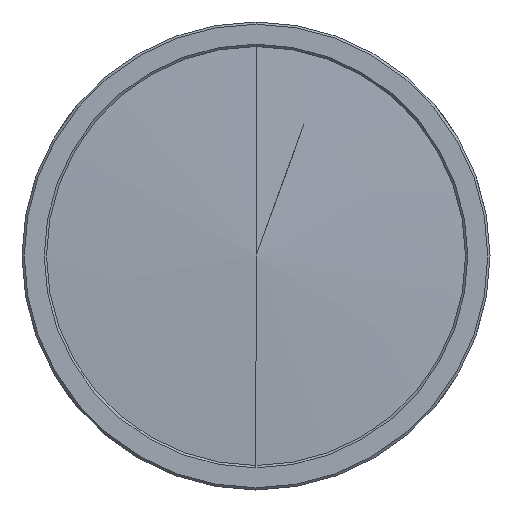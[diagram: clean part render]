
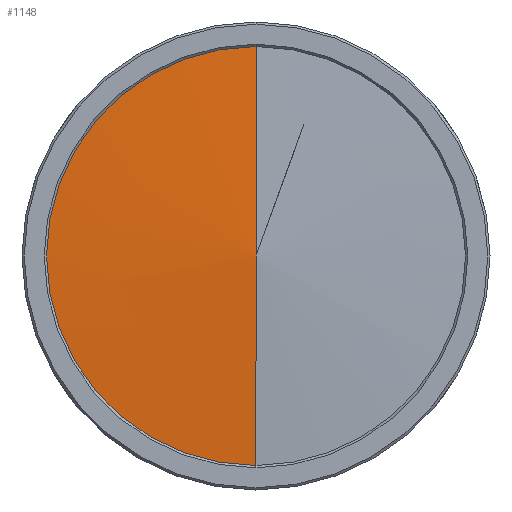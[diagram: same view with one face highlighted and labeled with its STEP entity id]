
A CAD part, left-side view. The second image highlights one B-rep face of the part: STEP entity #1148.
In plain terms, the highlighted conical face has half-angle 86.725 degrees and reference radius 17474.6 mm.
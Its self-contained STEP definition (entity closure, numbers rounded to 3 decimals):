
#140 = EDGE_CURVE ( 'NONE', #1391, #3879, #2349, .T. ) ;
#152 = CARTESIAN_POINT ( 'NONE',  ( 1.588, 0., 0. ) ) ;
#236 = DIRECTION ( 'NONE',  ( 1., 0., 0. ) ) ;
#501 = AXIS2_PLACEMENT_3D ( 'NONE', #152, #236, #3491 ) ;
#672 = EDGE_CURVE ( 'NONE', #3879, #1407, #2007, .T. ) ;
#780 = EDGE_LOOP ( 'NONE', ( #785, #2900, #4075 ) ) ;
#785 = ORIENTED_EDGE ( 'NONE', *, *, #140, .F. ) ;
#1101 = VECTOR ( 'NONE', #2489, 1000. ) ;
#1108 = FACE_OUTER_BOUND ( 'NONE', #780, .T. ) ;
#1134 = EDGE_CURVE ( 'NONE', #1391, #1407, #1319, .T. ) ;
#1148 = ADVANCED_FACE ( 'NONE', ( #1108 ), #1563, .T. ) ;
#1182 = DIRECTION ( 'NONE',  ( 0., 0., -1. ) ) ;
#1201 = CARTESIAN_POINT ( 'NONE',  ( 0., 0., 0. ) ) ;
#1319 = LINE ( 'NONE', #1772, #2888 ) ;
#1387 = AXIS2_PLACEMENT_3D ( 'NONE', #3398, #4070, #1182 ) ;
#1391 = VERTEX_POINT ( 'NONE', #1201 ) ;
#1407 = VERTEX_POINT ( 'NONE', #2511 ) ;
#1509 = DIRECTION ( 'NONE',  ( 0.057, 0., 0.998 ) ) ;
#1528 = CARTESIAN_POINT ( 'NONE',  ( 0., 0., 0. ) ) ;
#1563 = CONICAL_SURFACE ( 'NONE', #1387, 17474.636, 1.514 ) ;
#1772 = CARTESIAN_POINT ( 'NONE',  ( 0., 0., 0. ) ) ;
#2007 = CIRCLE ( 'NONE', #501, 27.75 ) ;
#2349 = LINE ( 'NONE', #1528, #1101 ) ;
#2489 = DIRECTION ( 'NONE',  ( 0.057, 0., -0.998 ) ) ;
#2511 = CARTESIAN_POINT ( 'NONE',  ( 1.588, 0., 27.75 ) ) ;
#2888 = VECTOR ( 'NONE', #1509, 1000. ) ;
#2900 = ORIENTED_EDGE ( 'NONE', *, *, #1134, .T. ) ;
#3398 = CARTESIAN_POINT ( 'NONE',  ( 1000., 0., 0. ) ) ;
#3491 = DIRECTION ( 'NONE',  ( 0., 0., -1. ) ) ;
#3879 = VERTEX_POINT ( 'NONE', #4186 ) ;
#4070 = DIRECTION ( 'NONE',  ( 1., 0., 0. ) ) ;
#4075 = ORIENTED_EDGE ( 'NONE', *, *, #672, .F. ) ;
#4186 = CARTESIAN_POINT ( 'NONE',  ( 1.588, 0., -27.75 ) ) ;
